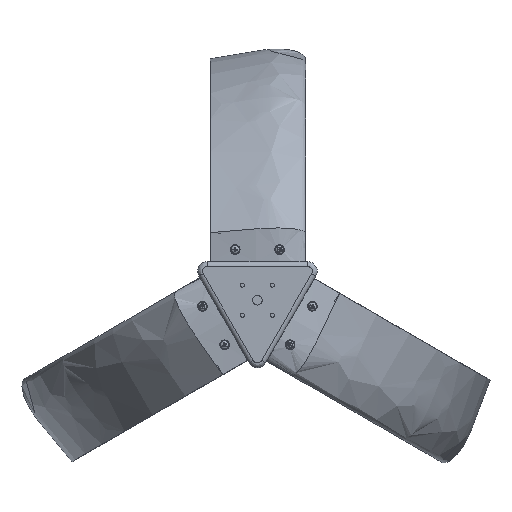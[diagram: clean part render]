
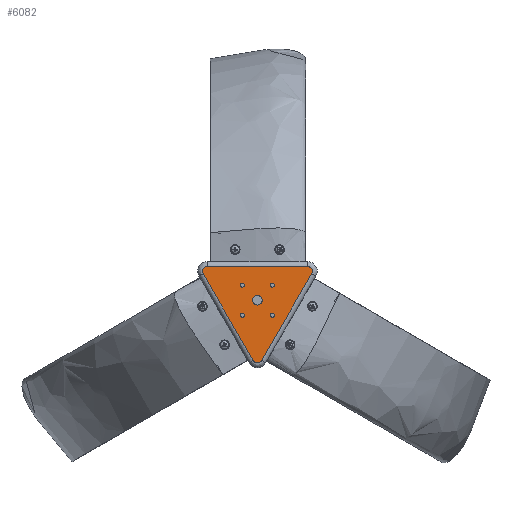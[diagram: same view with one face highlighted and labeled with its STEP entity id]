
A CAD part, front view. The second image highlights one B-rep face of the part: STEP entity #6082.
In plain terms, the highlighted planar face has unit normal (0, -1, 0) as drawn and (0, 1, 0) by its records, which use the part's own axes.
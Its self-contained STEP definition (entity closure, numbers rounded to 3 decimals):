
#533=FACE_BOUND('',#1297,.T.);
#534=FACE_BOUND('',#1298,.T.);
#535=FACE_BOUND('',#1299,.T.);
#536=FACE_BOUND('',#1300,.T.);
#537=FACE_BOUND('',#1301,.T.);
#697=PLANE('',#6858);
#907=FACE_OUTER_BOUND('',#1296,.T.);
#1296=EDGE_LOOP('',(#4621,#4622,#4623,#4624,#4625,#4626));
#1297=EDGE_LOOP('',(#4627));
#1298=EDGE_LOOP('',(#4628));
#1299=EDGE_LOOP('',(#4629));
#1300=EDGE_LOOP('',(#4630));
#1301=EDGE_LOOP('',(#4631));
#1708=CIRCLE('',#6793,2.067);
#1710=CIRCLE('',#6796,2.067);
#1712=CIRCLE('',#6799,2.067);
#1714=CIRCLE('',#6802,2.067);
#1745=CIRCLE('',#6848,5.);
#1748=CIRCLE('',#6852,5.);
#1751=CIRCLE('',#6856,5.);
#1752=CIRCLE('',#6859,5.);
#2100=LINE('',#14131,#2433);
#2101=LINE('',#14153,#2434);
#2102=LINE('',#14173,#2435);
#2433=VECTOR('',#7954,10.);
#2434=VECTOR('',#7963,10.);
#2435=VECTOR('',#7970,10.);
#2793=VERTEX_POINT('',#13935);
#2795=VERTEX_POINT('',#13941);
#2797=VERTEX_POINT('',#13947);
#2799=VERTEX_POINT('',#13953);
#2837=VERTEX_POINT('',#14123);
#2838=VERTEX_POINT('',#14125);
#2839=VERTEX_POINT('',#14129);
#2840=VERTEX_POINT('',#14147);
#2841=VERTEX_POINT('',#14151);
#2842=VERTEX_POINT('',#14169);
#2843=VERTEX_POINT('',#14175);
#3426=EDGE_CURVE('',#2793,#2793,#1708,.T.);
#3429=EDGE_CURVE('',#2795,#2795,#1710,.T.);
#3432=EDGE_CURVE('',#2797,#2797,#1712,.T.);
#3435=EDGE_CURVE('',#2799,#2799,#1714,.T.);
#3494=EDGE_CURVE('',#2837,#2838,#1745,.T.);
#3496=EDGE_CURVE('',#2838,#2839,#2100,.T.);
#3498=EDGE_CURVE('',#2839,#2840,#1748,.T.);
#3500=EDGE_CURVE('',#2840,#2841,#2101,.T.);
#3502=EDGE_CURVE('',#2841,#2842,#1751,.T.);
#3503=EDGE_CURVE('',#2842,#2837,#2102,.T.);
#3504=EDGE_CURVE('',#2843,#2843,#1752,.T.);
#4621=ORIENTED_EDGE('',*,*,#3494,.T.);
#4622=ORIENTED_EDGE('',*,*,#3496,.T.);
#4623=ORIENTED_EDGE('',*,*,#3498,.T.);
#4624=ORIENTED_EDGE('',*,*,#3500,.T.);
#4625=ORIENTED_EDGE('',*,*,#3502,.T.);
#4626=ORIENTED_EDGE('',*,*,#3503,.T.);
#4627=ORIENTED_EDGE('',*,*,#3426,.T.);
#4628=ORIENTED_EDGE('',*,*,#3429,.T.);
#4629=ORIENTED_EDGE('',*,*,#3432,.T.);
#4630=ORIENTED_EDGE('',*,*,#3435,.T.);
#4631=ORIENTED_EDGE('',*,*,#3504,.F.);
#6082=ADVANCED_FACE('',(#907,#533,#534,#535,#536,#537),#697,.F.);
#6793=AXIS2_PLACEMENT_3D('',#13936,#7807,#7808);
#6796=AXIS2_PLACEMENT_3D('',#13942,#7814,#7815);
#6799=AXIS2_PLACEMENT_3D('',#13948,#7821,#7822);
#6802=AXIS2_PLACEMENT_3D('',#13954,#7828,#7829);
#6848=AXIS2_PLACEMENT_3D('',#14127,#7948,#7949);
#6852=AXIS2_PLACEMENT_3D('',#14149,#7957,#7958);
#6856=AXIS2_PLACEMENT_3D('',#14171,#7966,#7967);
#6858=AXIS2_PLACEMENT_3D('',#14174,#7971,#7972);
#6859=AXIS2_PLACEMENT_3D('',#14176,#7973,#7974);
#7807=DIRECTION('center_axis',(0.,-1.,0.));
#7808=DIRECTION('ref_axis',(1.,0.,0.));
#7814=DIRECTION('center_axis',(0.,-1.,0.));
#7815=DIRECTION('ref_axis',(1.,0.,0.));
#7821=DIRECTION('center_axis',(0.,-1.,0.));
#7822=DIRECTION('ref_axis',(1.,0.,0.));
#7828=DIRECTION('center_axis',(0.,-1.,0.));
#7829=DIRECTION('ref_axis',(1.,0.,0.));
#7948=DIRECTION('center_axis',(0.,1.,0.));
#7949=DIRECTION('ref_axis',(0.866,0.,-0.5));
#7954=DIRECTION('',(-1.,0.,0.));
#7957=DIRECTION('center_axis',(0.,1.,0.));
#7958=DIRECTION('ref_axis',(-0.866,0.,-0.5));
#7963=DIRECTION('',(0.5,0.,0.866));
#7966=DIRECTION('center_axis',(0.,1.,0.));
#7967=DIRECTION('ref_axis',(0.,0.,1.));
#7970=DIRECTION('',(0.5,0.,-0.866));
#7971=DIRECTION('center_axis',(0.,-1.,0.));
#7972=DIRECTION('ref_axis',(0.,0.,-1.));
#7973=DIRECTION('center_axis',(0.,1.,0.));
#7974=DIRECTION('ref_axis',(1.,0.,0.));
#13935=CARTESIAN_POINT('',(-17.623,15.,15.556));
#13936=CARTESIAN_POINT('Origin',(-15.556,15.,15.556));
#13941=CARTESIAN_POINT('',(-17.623,15.,-15.556));
#13942=CARTESIAN_POINT('Origin',(-15.556,15.,-15.556));
#13947=CARTESIAN_POINT('',(13.489,15.,-15.556));
#13948=CARTESIAN_POINT('Origin',(15.556,15.,-15.556));
#13953=CARTESIAN_POINT('',(13.489,15.,15.556));
#13954=CARTESIAN_POINT('Origin',(15.556,15.,15.556));
#14123=CARTESIAN_POINT('',(56.292,15.,-27.5));
#14125=CARTESIAN_POINT('',(51.962,15.,-35.));
#14127=CARTESIAN_POINT('Origin',(51.962,15.,-30.));
#14129=CARTESIAN_POINT('',(-51.962,15.,-35.));
#14131=CARTESIAN_POINT('',(-34.641,15.,-35.));
#14147=CARTESIAN_POINT('',(-56.292,15.,-27.5));
#14149=CARTESIAN_POINT('Origin',(-51.962,15.,-30.));
#14151=CARTESIAN_POINT('',(-4.33,15.,62.5));
#14153=CARTESIAN_POINT('',(-8.66,15.,55.));
#14169=CARTESIAN_POINT('',(4.33,15.,62.5));
#14171=CARTESIAN_POINT('Origin',(0.,15.,60.));
#14173=CARTESIAN_POINT('',(43.301,15.,-5.));
#14174=CARTESIAN_POINT('Origin',(0.,15.,20.));
#14175=CARTESIAN_POINT('',(-5.,15.,0.));
#14176=CARTESIAN_POINT('Origin',(0.,15.,0.));
